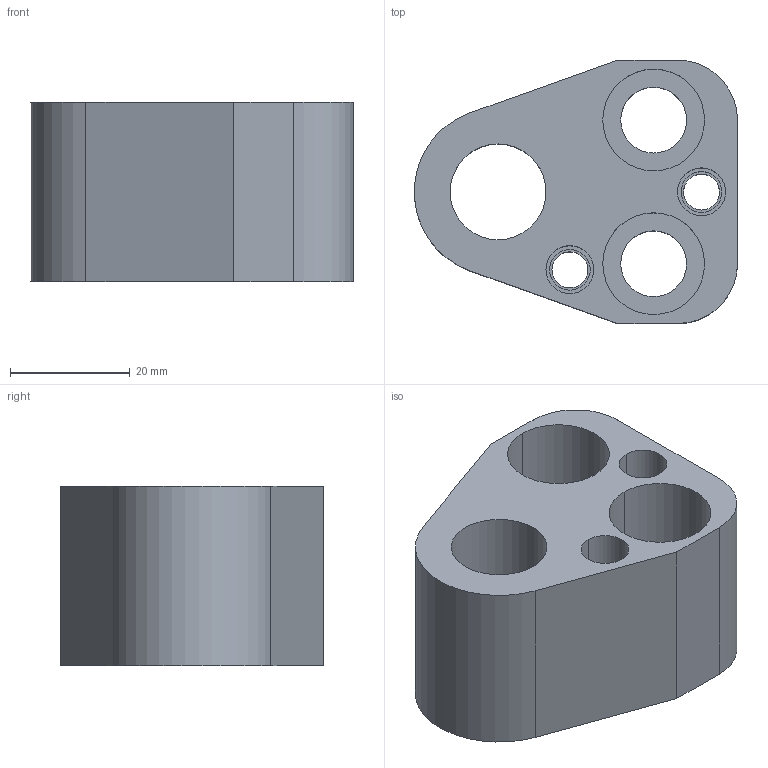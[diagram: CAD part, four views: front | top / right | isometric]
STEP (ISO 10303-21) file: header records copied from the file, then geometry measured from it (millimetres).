
FILE_DESCRIPTION(/* description */ (''),/* implementation_level */ '2;1');
FILE_NAME(/* name */ '3d_dp-an16_03691_r00.stp',/* time_stamp */ '2011-01-10T14:15:58+09:00',/* author */ ('MISUMI'),/* organization */ (''),/* preprocessor_version */ 'ST-DEVELOPER v11',/* originating_system */ 'UGS - NX 5.0',/* authorisation */ '');
FILE_SCHEMA (('CONFIG_CONTROL_DESIGN'));
Length unit declared in the file: millimetre
Products named in the file (1): 3d_dp-an16_03691_r00
Bounding box: 53.95 x 44 x 30 mm (x, y, z)
Volume: 38718.5 mm3; surface area: 13161.5 mm2
Topology: 1 solids, 1 shells, 43 faces, 100 edges, 66 vertices
Faces by surface type: cylinder 27, plane 14, cone 2
Entity records: 1360 total; most frequent: DIRECTION 244, CARTESIAN_POINT 210, ORIENTED_EDGE 200, EDGE_CURVE 100, AXIS2_PLACEMENT_3D 100, VERTEX_POINT 66, EDGE_LOOP 60, CIRCLE 56
